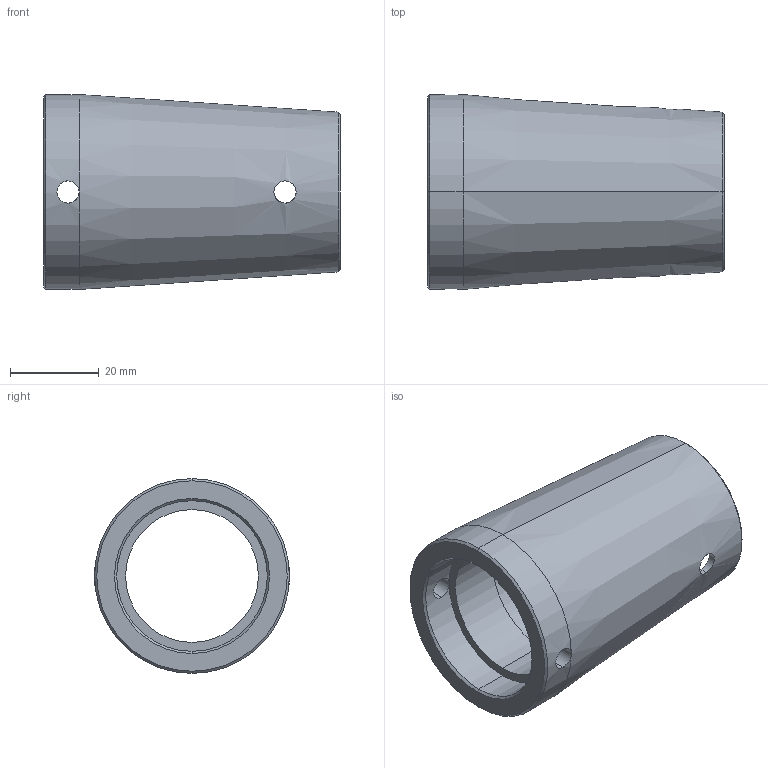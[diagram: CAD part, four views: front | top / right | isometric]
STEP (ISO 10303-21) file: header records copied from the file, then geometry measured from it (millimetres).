
FILE_DESCRIPTION (( 'STEP AP203' ), '1' );
FILE_NAME ('Abdeckhülse M30.STEP', '2018-02-20T06:50:54', ( 'install' ), ( 'Hewlett-Packard Company' ), 'SwSTEP 2.0', 'SolidWorks 2017', '' );
FILE_SCHEMA (( 'CONFIG_CONTROL_DESIGN' ));
Length unit declared in the file: millimetre
Products named in the file (1): Abdeckhülse M30
Bounding box: 67 x 44 x 44 mm (x, y, z)
Volume: 32720.8 mm3; surface area: 16320.7 mm2
Topology: 1 solids, 1 shells, 31 faces, 82 edges, 50 vertices
Faces by surface type: cylinder 18, cone 8, plane 5
Entity records: 1515 total; most frequent: CARTESIAN_POINT 668, ORIENTED_EDGE 164, DIRECTION 158, EDGE_CURVE 82, AXIS2_PLACEMENT_3D 66, VERTEX_POINT 50, EDGE_LOOP 38, CIRCLE 34
